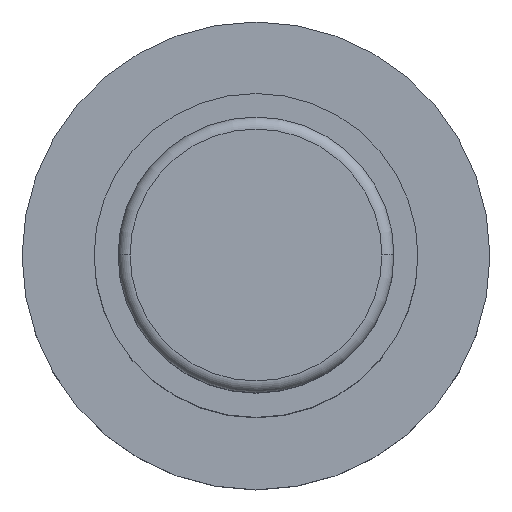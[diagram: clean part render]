
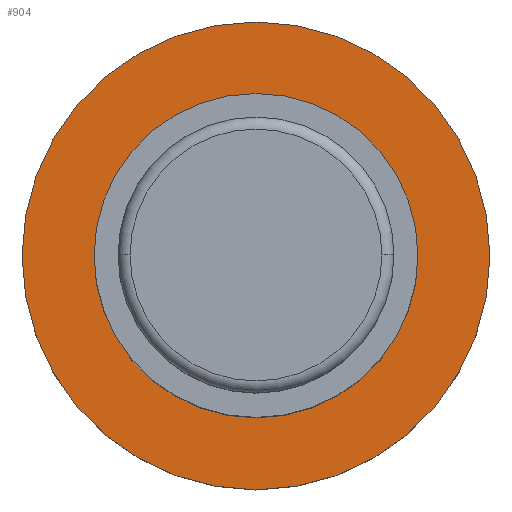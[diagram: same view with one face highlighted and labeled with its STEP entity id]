
A CAD part, top view. The second image highlights one B-rep face of the part: STEP entity #904.
In plain terms, the highlighted planar face has unit normal (0, 0, 1).
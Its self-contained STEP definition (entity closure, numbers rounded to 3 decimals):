
#21 = ORIENTED_EDGE ( 'NONE', *, *, #675, .T. ) ;
#22 = ORIENTED_EDGE ( 'NONE', *, *, #682, .T. ) ;
#154 = VERTEX_POINT ( 'NONE', #179 ) ;
#155 = VERTEX_POINT ( 'NONE', #178 ) ;
#178 = CARTESIAN_POINT ( 'NONE',  ( 3.375, 0., 0. ) ) ;
#179 = CARTESIAN_POINT ( 'NONE',  ( -3.375, 0., 0. ) ) ;
#187 = CARTESIAN_POINT ( 'NONE',  ( 4.875, 0., 0. ) ) ;
#190 = CARTESIAN_POINT ( 'NONE',  ( -4.875, 0., 0. ) ) ;
#203 = CARTESIAN_POINT ( 'NONE',  ( 0., 0., 0. ) ) ;
#204 = DIRECTION ( 'NONE',  ( -1., 0., 0. ) ) ;
#205 = DIRECTION ( 'NONE',  ( 0., 0., -1. ) ) ;
#229 = VERTEX_POINT ( 'NONE', #187 ) ;
#230 = VERTEX_POINT ( 'NONE', #190 ) ;
#247 = DIRECTION ( 'NONE',  ( 0., 0., -1. ) ) ;
#248 = CARTESIAN_POINT ( 'NONE',  ( 0., 0., 0. ) ) ;
#249 = DIRECTION ( 'NONE',  ( -1., 0., 0. ) ) ;
#266 = CARTESIAN_POINT ( 'NONE',  ( 0., 0., 0. ) ) ;
#267 = DIRECTION ( 'NONE',  ( 0., 0., -1. ) ) ;
#269 = DIRECTION ( 'NONE',  ( -1., 0., 0. ) ) ;
#277 = CARTESIAN_POINT ( 'NONE',  ( 0., 0., 0. ) ) ;
#282 = DIRECTION ( 'NONE',  ( 0., 0., -1. ) ) ;
#285 = DIRECTION ( 'NONE',  ( -1., 0., 0. ) ) ;
#469 = PLANE ( 'NONE',  #562 ) ;
#470 = CARTESIAN_POINT ( 'NONE',  ( 0., 0., 0. ) ) ;
#471 = DIRECTION ( 'NONE',  ( 0., 0., -1. ) ) ;
#472 = DIRECTION ( 'NONE',  ( -1., 0., 0. ) ) ;
#527 = EDGE_LOOP ( 'NONE', ( #771, #738 ) ) ;
#528 = EDGE_LOOP ( 'NONE', ( #21, #22 ) ) ;
#562 = AXIS2_PLACEMENT_3D ( 'NONE', #470, #471, #472 ) ;
#604 = AXIS2_PLACEMENT_3D ( 'NONE', #277, #282, #285 ) ;
#609 = AXIS2_PLACEMENT_3D ( 'NONE', #248, #247, #249 ) ;
#615 = AXIS2_PLACEMENT_3D ( 'NONE', #266, #267, #269 ) ;
#624 = AXIS2_PLACEMENT_3D ( 'NONE', #203, #205, #204 ) ;
#660 = EDGE_CURVE ( 'NONE', #230, #229, #816, .T. ) ;
#675 = EDGE_CURVE ( 'NONE', #154, #155, #847, .T. ) ;
#682 = EDGE_CURVE ( 'NONE', #155, #154, #831, .T. ) ;
#687 = EDGE_CURVE ( 'NONE', #229, #230, #836, .T. ) ;
#738 = ORIENTED_EDGE ( 'NONE', *, *, #660, .F. ) ;
#771 = ORIENTED_EDGE ( 'NONE', *, *, #687, .F. ) ;
#816 = CIRCLE ( 'NONE', #624, 4.875 ) ;
#831 = CIRCLE ( 'NONE', #609, 3.375 ) ;
#836 = CIRCLE ( 'NONE', #604, 4.875 ) ;
#847 = CIRCLE ( 'NONE', #615, 3.375 ) ;
#870 = FACE_OUTER_BOUND ( 'NONE', #527, .T. ) ;
#871 = FACE_BOUND ( 'NONE', #528, .T. ) ;
#904 = ADVANCED_FACE ( 'NONE', ( #870, #871 ), #469, .F. ) ;
